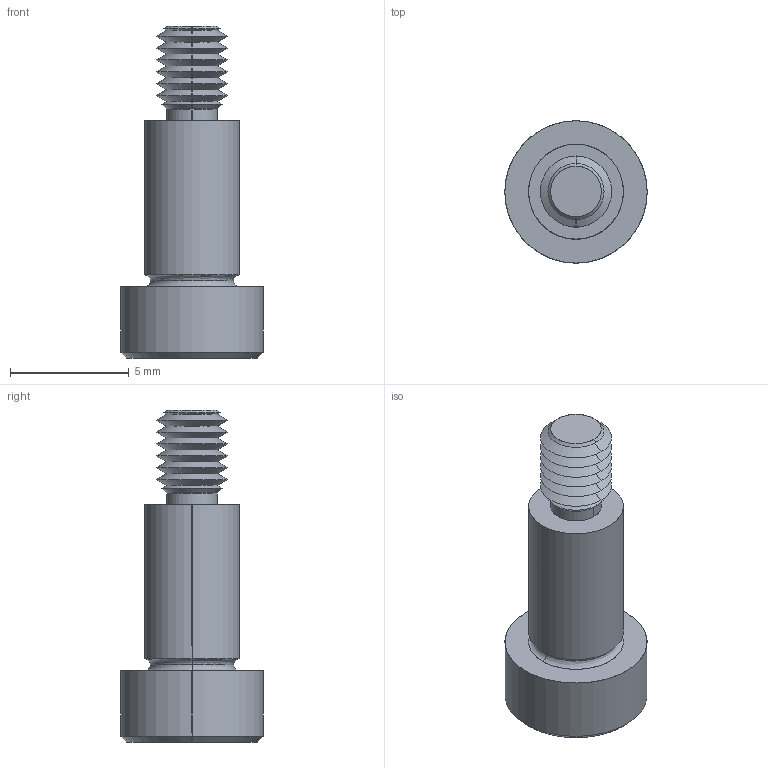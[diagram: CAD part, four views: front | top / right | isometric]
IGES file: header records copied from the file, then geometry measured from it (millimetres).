
Start section: SolidWorks IGES file using analytic representation for surfaces
Global section: file name: C:\Users\IanO\Documents\Temp Folder\GENERAL\SCREW REVISION\P0130_v2\P0130.T5_v2_20220106_IGES\P0130.040-007-T5.igs; native system: SolidWorks 2019; preprocessor: SolidWorks 2019; author: IanO; date: 220106.220559; units: millimetre
Bounding box: 6 x 6 x 14 mm (x, y, z)
Surface area: 272.8 mm2 (no closed solid volume)
Topology: 0 solids, 0 shells, 68 faces, 520 edges, 518 vertices
Faces by surface type: revolution 48, bspline 20
